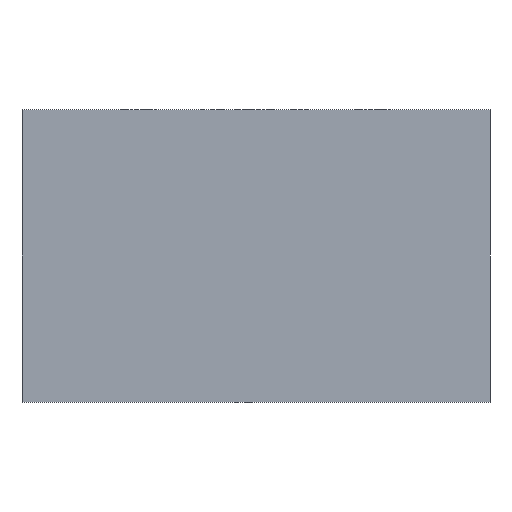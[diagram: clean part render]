
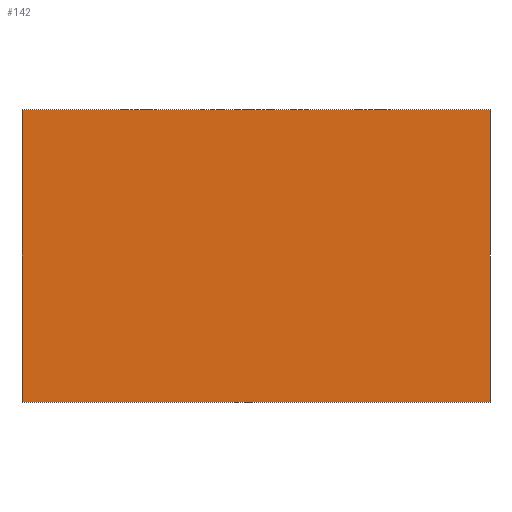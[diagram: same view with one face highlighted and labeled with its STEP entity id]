
A CAD part, left-side view. The second image highlights one B-rep face of the part: STEP entity #142.
In plain terms, the highlighted planar face has unit normal (-1, 0, 0).
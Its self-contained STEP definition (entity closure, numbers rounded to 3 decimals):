
#142=ADVANCED_FACE('',(#288),#289,.F.);
#288=FACE_OUTER_BOUND('',#427,.T.);
#289=PLANE('',#428);
#427=EDGE_LOOP('',(#742,#743,#744,#745));
#428=AXIS2_PLACEMENT_3D('',#746,#747,#748);
#742=ORIENTED_EDGE('',*,*,#885,.T.);
#743=ORIENTED_EDGE('',*,*,#879,.F.);
#744=ORIENTED_EDGE('',*,*,#882,.F.);
#745=ORIENTED_EDGE('',*,*,#874,.F.);
#746=CARTESIAN_POINT('',(-12.5,0.0,-25.0));
#747=DIRECTION('',(1.0,0.0,0.0));
#748=DIRECTION('',(0.0,0.0,-1.0));
#874=EDGE_CURVE('',#1042,#1044,#1045,.T.);
#879=EDGE_CURVE('',#1051,#1053,#1054,.T.);
#882=EDGE_CURVE('',#1044,#1051,#1057,.T.);
#885=EDGE_CURVE('',#1042,#1053,#1060,.T.);
#1042=VERTEX_POINT('',#1250);
#1044=VERTEX_POINT('',#1253);
#1045=LINE('',#1254,#1255);
#1051=VERTEX_POINT('',#1263);
#1053=VERTEX_POINT('',#1266);
#1054=LINE('',#1267,#1268);
#1057=LINE('',#1272,#1273);
#1060=LINE('',#1277,#1278);
#1250=CARTESIAN_POINT('',(-12.5,40.0,0.0));
#1253=CARTESIAN_POINT('',(-12.5,-40.0,0.0));
#1254=CARTESIAN_POINT('',(-12.5,0.0,0.0));
#1255=VECTOR('',#1432,1.0);
#1263=CARTESIAN_POINT('',(-12.5,-40.0,-50.0));
#1266=CARTESIAN_POINT('',(-12.5,40.0,-50.0));
#1267=CARTESIAN_POINT('',(-12.5,0.0,-50.0));
#1268=VECTOR('',#1436,1.0);
#1272=CARTESIAN_POINT('',(-12.5,-40.0,-25.0));
#1273=VECTOR('',#1438,1.0);
#1277=CARTESIAN_POINT('',(-12.5,40.0,-25.0));
#1278=VECTOR('',#1440,1.0);
#1432=DIRECTION('',(0.0,-1.0,0.0));
#1436=DIRECTION('',(0.0,1.0,0.0));
#1438=DIRECTION('',(0.0,0.0,-1.0));
#1440=DIRECTION('',(0.0,0.0,-1.0));
